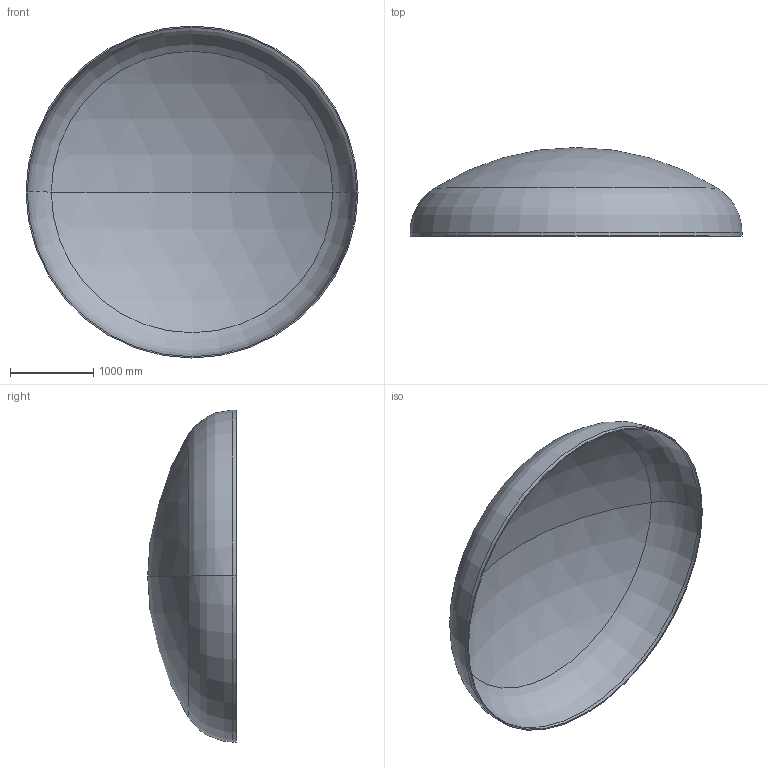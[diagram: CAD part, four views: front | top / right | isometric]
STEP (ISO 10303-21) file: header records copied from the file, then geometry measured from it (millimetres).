
FILE_DESCRIPTION (( 'STEP AP203' ), '1' );
FILE_NAME ('DIN 28013 Korbbogenform_-_Boden DIN 28013 - 4000 x 45 - I - s=15.step', '2016-07-01T22:04:07', ( '' ), ( '' ), 'SwSTEP 2.0', 'SolidWorks 2013', '' );
FILE_SCHEMA (( 'CONFIG_CONTROL_DESIGN' ));
Length unit declared in the file: millimetre
Products named in the file (1): DIN 28013 Korbbogenform_-_Boden DIN 28013 - 4000 x 45 - I - s=15
Bounding box: 4000 x 1067.89 x 4000 mm (x, y, z)
Volume: 268155531.1 mm3; surface area: 35942316.3 mm2
Topology: 1 solids, 1 shells, 13 faces, 24 edges, 14 vertices
Faces by surface type: torus 4, cylinder 4, sphere 4, plane 1
Entity records: 407 total; most frequent: DIRECTION 72, CARTESIAN_POINT 52, ORIENTED_EDGE 48, AXIS2_PLACEMENT_3D 34, EDGE_CURVE 24, CIRCLE 20, EDGE_LOOP 14, VERTEX_POINT 14
